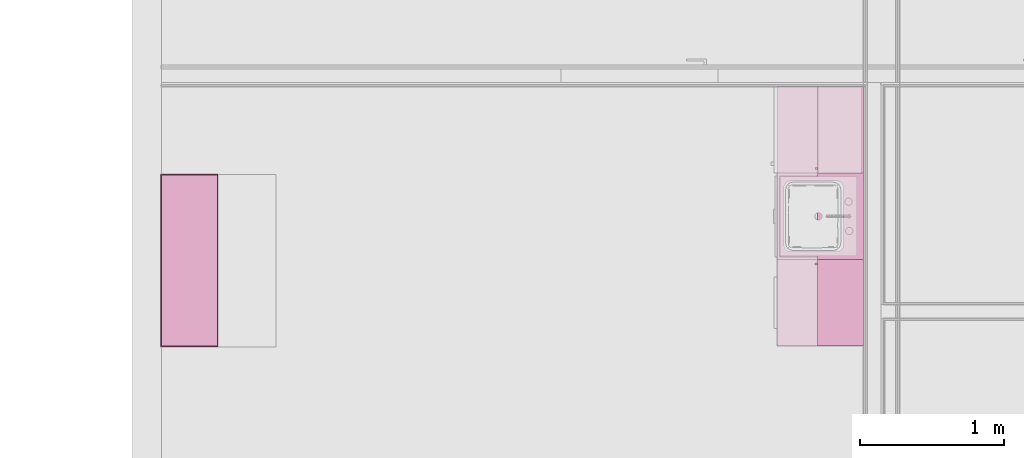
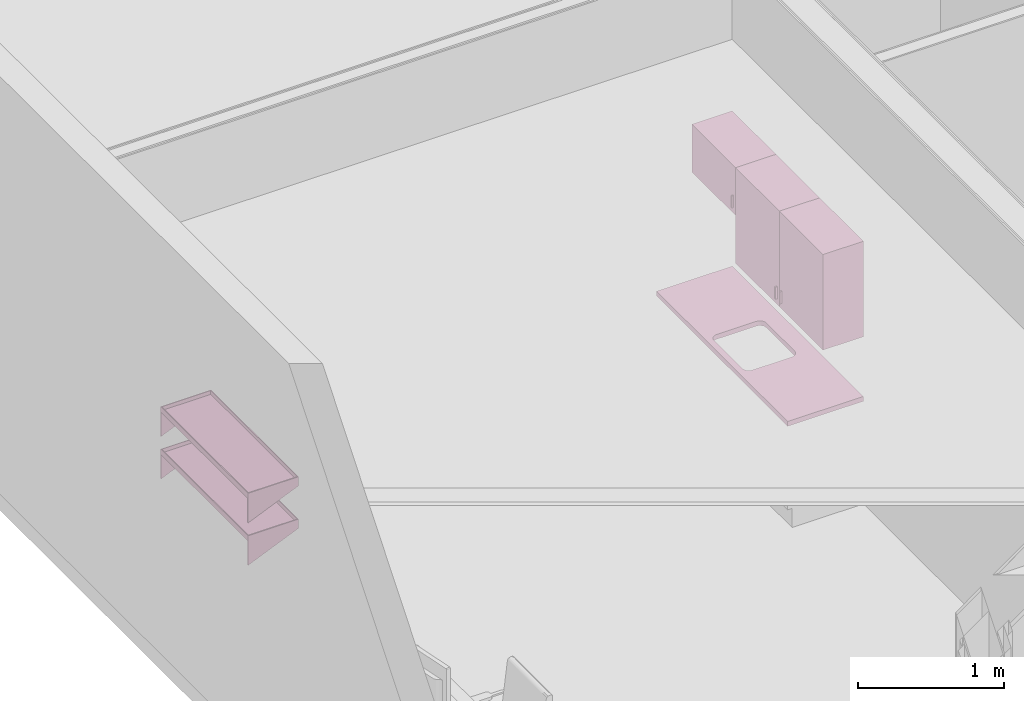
# One storey, part 9 of 12: 5 furniture elements.
"""IFC4 building model written with IfcOpenShell, lengths in millimetres."""

from ifc_helpers import new_model, entity, si_unit, converted_unit, direction, frame, origin, place, context, subcontext, project, spatial, line, arc, indexed_curve, outline, extrude, source, transform, mapped, material, type_object, type_shapes, element, save


model = new_model("IFC4")

# Units and contexts
model_context = context("Model", 3, precision=0.01, world=origin(), true_north=direction((0.0, 1.0)))
body_context = subcontext(model_context, "Body", "Model", "MODEL_VIEW")
ifc_project = project(units=[si_unit("LENGTHUNIT", "METRE", prefix="MILLI"), si_unit("AREAUNIT", "SQUARE_METRE"), si_unit("VOLUMEUNIT", "CUBIC_METRE"), converted_unit("PLANEANGLEUNIT", "DEGREE", entity("IfcPlaneAngleMeasure", 0.017453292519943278), si_unit("PLANEANGLEUNIT", "RADIAN"), dimensions=[0, 0, 0, 0, 0, 0, 0])], contexts=[model_context])

# Site, building, storey, space
site_placement = place(None, origin())
site = spatial("IfcSite", under=ifc_project, at=site_placement, Name="Tomtens navn", CompositionType="ELEMENT")
building_placement = place(site_placement, origin())
building = spatial("IfcBuilding", under=site, at=building_placement, Name="Byggets navn", CompositionType="ELEMENT")
storey_placement = place(building_placement, frame((0.0, 0.0, 3500.0)))
storey = spatial("IfcBuildingStorey", under=building, at=storey_placement, Name="Level 02", CompositionType="ELEMENT", Elevation=3499.999999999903)
space_placement = place(storey_placement, origin())
space = spatial("IfcSpace", under=storey, at=space_placement, Name="205", CompositionType="ELEMENT", PredefinedType="NOTDEFINED")

# Furniture
ifc_material_1 = material(Name="Counter Top", Category="Unassigned")
furniture_type_1 = type_object("IfcFurnitureType", Name="Worktop:with sink", AssemblyPlace="NOTDEFINED", PredefinedType="NOTDEFINED", material=ifc_material_1)
shared_shape_1 = source(origin(), body_context, "Body", "SweptSolid", [
    extrude(outline(indexed_curve([(-900.0000000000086, -300.00000000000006), (900.0000000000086, -300.00000000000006), (900.0000000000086, 300.00000000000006), (-900.0000000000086, 300.00000000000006), (-900.0000000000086, -300.00000000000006)], self_intersect=False), holes=[indexed_curve([(-194.39999999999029, -162.70000000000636), (-230.32102448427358, -147.82102448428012), (-245.19999999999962, -111.89999999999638), (-245.19999999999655, 201.90000000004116), (-230.32102448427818, 237.82102448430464), (-194.4000000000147, 252.70000000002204), (194.40000000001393, 252.70000000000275), (230.32102448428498, 237.82102448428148), (245.20000000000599, 201.90000000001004), (245.2000000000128, -111.89999999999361), (230.3210244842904, -147.82102448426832), (194.4000000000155, -162.6999999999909)], segments=[arc(1, 2, 3), line(3, 4), arc(4, 5, 6), line(6, 7), arc(7, 8, 9), line(9, 10), arc(10, 11, 12), line(12, 1)], self_intersect=False)]), frame((-300.4622950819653, -300.0, 860.0), z_axis=(0.0, 0.0, 1.0), x_axis=(-1.0, 0.0, 0.0)), (0.0, 0.0, 1.0), 40.000000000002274),
])
type_shapes(furniture_type_1, [shared_shape_1])
furniture_1_placement = place(space_placement, frame((63496.35352810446, 12807.004161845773, 0.0), z_axis=(0.0, 0.0, 1.0), x_axis=(0.0, -1.0, 0.0)))
element("IfcFurniture", 1, at=furniture_1_placement, inside=space, type_object=furniture_type_1, material=ifc_material_1, Name="Worktop:with sink", PredefinedType="NOTDEFINED", context=body_context, shape_type="MappedRepresentation", body=[
    mapped(shared_shape_1, transform((0.0, 0.0, 0.0), scale=1.0)),
])
ifc_material_2 = material(Name="Cabinets", Category="Unassigned")
furniture_type_2 = type_object("IfcFurnitureType", Name="Overskap-Enkel dør:600 H500", AssemblyPlace="NOTDEFINED", PredefinedType="NOTDEFINED", material=ifc_material_2)
shared_shape_2 = source(origin(), body_context, "Body", "SweptSolid", [
    extrude(outline(indexed_curve([(-300.00000000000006, -199.9999999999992), (300.00000000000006, -199.9999999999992), (300.00000000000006, 199.9999999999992), (-300.00000000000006, 199.9999999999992), (-300.00000000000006, -199.9999999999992)], self_intersect=False), holes=[indexed_curve([(-280.9499999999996, -180.94999999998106), (-280.94999999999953, 180.95000000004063), (280.9500000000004, 180.95000000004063), (280.95000000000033, -180.94999999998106), (-280.9499999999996, -180.94999999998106)], self_intersect=False)]), frame((29.771162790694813, 74.49999999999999, 2000.0), z_axis=(0.0, 1.0, 0.0), x_axis=(1.0, 0.0, 0.0)), (0.0, 0.0, 1.0), 299.99999999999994),
    extrude(outline(indexed_curve([(-9.525, -280.94999999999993), (9.525, -280.94999999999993), (9.525, 280.95), (-9.525, 280.95), (-9.525, -280.94999999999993)], self_intersect=False)), frame((29.771162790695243, 84.02499999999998, 1819.0499999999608), z_axis=(0.0, 0.0, 1.0), x_axis=(0.0, 1.0, 0.0)), (0.0, 0.0, 1.0), 361.90000000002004),
    extrude(outline(indexed_curve([(-9.999999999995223, -299.99999999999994), (9.999999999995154, -299.99999999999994), (9.999999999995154, 299.99999999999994), (-9.999999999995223, 299.99999999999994), (-9.999999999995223, -299.99999999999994)], self_intersect=False)), frame((29.771162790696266, 384.5000000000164, 1800.0), z_axis=(0.0, 0.0, 1.0), x_axis=(0.0, -1.0, 0.0)), (0.0, 0.0, 1.0), 400.00000000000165),
    extrude(outline(indexed_curve([(-7.499999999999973, -5.9999999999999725), (7.500000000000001, -5.9999999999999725), (7.500000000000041, 6.000000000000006), (-7.499999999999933, 6.000000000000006), (-7.499999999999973, -5.9999999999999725)], self_intersect=False)), frame((-238.6631999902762, 402.0, 1850.6534623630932), z_axis=(0.0, 0.0, 1.0), x_axis=(0.0, -1.0, 0.0)), (0.0, 0.0, 1.0), 100.0),
])
type_shapes(furniture_type_2, [shared_shape_2])
furniture_2_placement = place(space_placement, frame((63570.85352810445, 13677.695294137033, 0.0), z_axis=(0.0, 0.0, 1.0), x_axis=(0.0, 1.0, 0.0)))
element("IfcFurniture", 2, at=furniture_2_placement, inside=space, type_object=furniture_type_2, material=ifc_material_2, Name="Overskap-Enkel dør:600 H500", PredefinedType="NOTDEFINED", context=body_context, shape_type="MappedRepresentation", body=[
    mapped(shared_shape_2, transform((0.0, 0.0, 0.0), scale=1.0)),
])
furniture_type_3 = type_object("IfcFurnitureType", Name="Overskap-Enkel dør:600", AssemblyPlace="NOTDEFINED", PredefinedType="NOTDEFINED", material=ifc_material_2)
shared_shape_3 = source(origin(), body_context, "Body", "SweptSolid", [
    extrude(outline(indexed_curve([(-300.00000000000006, -400.00000000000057), (300.00000000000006, -400.00000000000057), (300.00000000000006, 400.00000000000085), (-300.00000000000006, 400.00000000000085), (-300.00000000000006, -400.00000000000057)], self_intersect=False), holes=[indexed_curve([(-280.94999999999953, -380.94999999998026), (-280.94999999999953, 380.9500000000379), (280.95000000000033, 380.9500000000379), (280.95000000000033, -380.94999999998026), (-280.94999999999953, -380.94999999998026)], self_intersect=False)]), frame((29.77116279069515, 74.49999999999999, 1800.0), z_axis=(0.0, 1.0, 0.0), x_axis=(1.0, 0.0, 0.0)), (0.0, 0.0, 1.0), 299.99999999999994),
    extrude(outline(indexed_curve([(-9.525, -280.94999999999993), (9.525, -280.94999999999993), (9.525, 280.94999999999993), (-9.525, 280.94999999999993), (-9.525, -280.94999999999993)], self_intersect=False)), frame((29.771162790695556, 84.02499999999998, 1419.0499999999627), z_axis=(0.0, 0.0, 1.0), x_axis=(0.0, 1.0, 0.0)), (0.0, 0.0, 1.0), 761.9000000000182),
    extrude(outline(indexed_curve([(-9.999999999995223, -299.99999999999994), (9.999999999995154, -299.99999999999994), (9.999999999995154, 299.99999999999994), (-9.999999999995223, 299.99999999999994), (-9.999999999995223, -299.99999999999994)], self_intersect=False)), frame((29.771162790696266, 384.5000000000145, 1400.0), z_axis=(0.0, 0.0, 1.0), x_axis=(0.0, -1.0, 0.0)), (0.0, 0.0, 1.0), 800.0000000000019),
    extrude(outline(indexed_curve([(-7.499999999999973, -5.9999999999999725), (7.500000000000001, -5.9999999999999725), (7.500000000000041, 6.000000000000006), (-7.499999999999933, 6.000000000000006), (-7.499999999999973, -5.9999999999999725)], self_intersect=False)), frame((-238.6631999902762, 402.0, 1450.6534623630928), z_axis=(0.0, 0.0, 1.0), x_axis=(0.0, -1.0, 0.0)), (0.0, 0.0, 1.0), 100.0),
])
type_shapes(furniture_type_3, [shared_shape_3])
furniture_3_placement = place(space_placement, frame((63570.85352810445, 13077.695294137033, 0.0), z_axis=(0.0, 0.0, 1.0), x_axis=(0.0, 1.0, 0.0)))
element("IfcFurniture", 3, at=furniture_3_placement, inside=space, type_object=furniture_type_3, material=ifc_material_2, Name="Overskap-Enkel dør:600", PredefinedType="NOTDEFINED", context=body_context, shape_type="MappedRepresentation", body=[
    mapped(shared_shape_3, transform((0.0, 0.0, 0.0), scale=1.0)),
])
furniture_type_4 = type_object("IfcFurnitureType", Name="Overskap-Enkel dør:600", AssemblyPlace="NOTDEFINED", PredefinedType="NOTDEFINED", material=ifc_material_2)
shared_shape_4 = source(origin(), body_context, "Body", "SweptSolid", [
    extrude(outline(indexed_curve([(-300.00000000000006, -400.00000000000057), (300.00000000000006, -400.00000000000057), (300.00000000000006, 400.00000000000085), (-300.00000000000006, 400.00000000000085), (-300.00000000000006, -400.00000000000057)], self_intersect=False), holes=[indexed_curve([(-280.94999999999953, -380.94999999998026), (-280.94999999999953, 380.9500000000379), (280.95000000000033, 380.9500000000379), (280.95000000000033, -380.94999999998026), (-280.94999999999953, -380.94999999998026)], self_intersect=False)]), frame((29.77116279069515, -374.49999999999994, 1800.0), z_axis=(0.0, 1.0, 0.0), x_axis=(1.0, 0.0, 0.0)), (0.0, 0.0, 1.0), 299.99999999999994),
    extrude(outline(indexed_curve([(-280.94999999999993, -9.525), (280.94999999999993, -9.525), (280.94999999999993, 9.525), (-280.94999999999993, 9.525), (-280.94999999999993, -9.525)], self_intersect=False)), frame((29.771162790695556, -84.02499999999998, 1419.0499999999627), z_axis=(0.0, 0.0, 1.0), x_axis=(-1.0, 0.0, 0.0)), (0.0, 0.0, 1.0), 761.9000000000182),
    extrude(outline(indexed_curve([(-299.99999999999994, -9.999999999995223), (299.99999999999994, -9.999999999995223), (299.99999999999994, 9.999999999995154), (-299.99999999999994, 9.999999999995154), (-299.99999999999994, -9.999999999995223)], self_intersect=False)), frame((29.771162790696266, -384.5000000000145, 1400.0)), (0.0, 0.0, 1.0), 800.0000000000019),
    extrude(outline(indexed_curve([(-5.999999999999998, -7.50000000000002), (5.999999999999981, -7.50000000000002), (6.000000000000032, 7.499999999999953), (-5.999999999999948, 7.499999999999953), (-5.999999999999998, -7.50000000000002)], self_intersect=False)), frame((-238.6631999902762, -402.0, 1450.6534623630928)), (0.0, 0.0, 1.0), 100.0),
])
type_shapes(furniture_type_4, [shared_shape_4])
furniture_4_placement = place(space_placement, frame((63570.85352810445, 12537.237619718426, 0.0), z_axis=(0.0, 0.0, 1.0), x_axis=(0.0, -1.0, 0.0)))
element("IfcFurniture", 4, at=furniture_4_placement, inside=space, type_object=furniture_type_4, material=ifc_material_2, Name="Overskap-Enkel dør:600", PredefinedType="NOTDEFINED", context=body_context, shape_type="MappedRepresentation", body=[
    mapped(shared_shape_4, transform((0.0, 0.0, 0.0), scale=1.0)),
])
ifc_material_3 = material(Name="<Unnamed>")
furniture_type_5 = type_object("IfcFurnitureType", Name="Detention_Bunk-WallMnt:Double-Bunk", AssemblyPlace="NOTDEFINED", PredefinedType="NOTDEFINED", material=ifc_material_3)
shared_shape_5 = source(origin(), body_context, "Body", "SweptSolid", [
    extrude(outline(indexed_curve([(-600.0000000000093, -199.99999999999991), (600.0000000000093, -199.99999999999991), (600.0000000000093, 199.99999999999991), (-600.0000000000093, 199.99999999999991), (-600.0000000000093, -199.99999999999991)], self_intersect=False)), frame((0.0, 0.0, 0.0), z_axis=(0.0, 0.0, 1.0), x_axis=(-1.0, 0.0, 0.0)), (0.0, 0.0, 1.0), 12.700000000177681),
    extrude(outline(indexed_curve([(-3.174999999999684, -599.9999999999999), (3.1749999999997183, -599.9999999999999), (3.1749999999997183, 599.9999999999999), (-3.174999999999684, 599.9999999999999), (-3.174999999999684, -599.9999999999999)], self_intersect=False)), frame((0.0, -196.82500000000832, 12.700000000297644), z_axis=(0.0, 0.0, 1.0), x_axis=(0.0, 1.0, 0.0)), (0.0, 0.0, 1.0), 31.7739986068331),
    extrude(outline(indexed_curve([(-3.174999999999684, -600.0), (3.1749999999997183, -600.0), (3.1749999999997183, 600.0), (-3.174999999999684, 600.0), (-3.174999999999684, -600.0)], self_intersect=False)), frame((0.0, 196.82499999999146, 12.69999999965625), z_axis=(0.0, 0.0, 1.0), x_axis=(0.0, -1.0, 0.0)), (0.0, 0.0, 1.0), 31.773998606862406),
    extrude(outline(indexed_curve([(-3.1749999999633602, -200.00000000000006), (3.174999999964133, -200.00000000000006), (3.1749999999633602, 200.00000000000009), (-3.174999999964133, 200.00000000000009), (-3.1749999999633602, -200.00000000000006)], self_intersect=False)), frame((596.8249999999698, 0.0, 12.700000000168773)), (0.0, 0.0, 1.0), 31.773998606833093),
    extrude(outline(indexed_curve([(-3.1749999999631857, -199.9999999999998), (3.1749999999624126, -199.9999999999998), (3.1749999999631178, 199.99999999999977), (-3.1749999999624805, 199.99999999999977), (-3.1749999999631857, -199.9999999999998)], self_intersect=False)), frame((-596.8249999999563, 0.0, 12.69999999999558), z_axis=(0.0, 0.0, 1.0), x_axis=(-1.0, 0.0, 0.0)), (0.0, 0.0, 1.0), 31.773998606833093),
    extrude(outline(indexed_curve([(-600.0000000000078, -200.00000000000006), (600.0000000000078, -200.00000000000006), (600.0000000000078, 200.00000000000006), (-600.0000000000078, 200.00000000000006), (-600.0000000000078, -200.00000000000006)], self_intersect=False)), frame((0.0, 0.0, 355.5260013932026), z_axis=(0.0, 0.0, 1.0), x_axis=(-1.0, 0.0, 0.0)), (0.0, 0.0, 1.0), 12.70000000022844),
    extrude(outline(indexed_curve([(-3.1749999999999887, -599.9999999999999), (3.1749999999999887, -599.9999999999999), (3.1749999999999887, 599.9999999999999), (-3.1749999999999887, 599.9999999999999), (-3.1749999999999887, -599.9999999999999)], self_intersect=False)), frame((0.0, -196.82500000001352, 368.2260013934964), z_axis=(0.0, 0.0, 1.0), x_axis=(0.0, 1.0, 0.0)), (0.0, 0.0, 1.0), 31.773998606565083),
    extrude(outline(indexed_curve([(-3.1750000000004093, -200.00000000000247), (3.174999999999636, -200.00000000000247), (3.1750000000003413, 200.00000000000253), (-3.174999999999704, 200.00000000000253), (-3.1750000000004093, -200.00000000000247)], self_intersect=False)), frame((-596.8249999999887, 0.0, 368.2260013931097), z_axis=(0.0, 0.0, 1.0), x_axis=(-1.0, 0.0, 0.0)), (0.0, 0.0, 1.0), 31.773998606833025),
    extrude(outline(indexed_curve([(-3.1749999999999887, -600.0), (3.1749999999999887, -600.0), (3.1749999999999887, 600.0), (-3.1749999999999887, 600.0), (-3.1749999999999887, -600.0)], self_intersect=False)), frame((0.0, 196.82499999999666, 368.2260013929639), z_axis=(0.0, 0.0, 1.0), x_axis=(0.0, -1.0, 0.0)), (0.0, 0.0, 1.0), 31.773998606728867),
    extrude(outline(indexed_curve([(-3.174999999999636, -200.0000000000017), (3.1750000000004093, -200.0000000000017), (3.174999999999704, 200.00000000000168), (-3.1750000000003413, 200.00000000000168), (-3.174999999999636, -200.0000000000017)], self_intersect=False)), frame((596.8250000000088, 0.0, 368.22600139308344)), (0.0, 0.0, 1.0), 31.773998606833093),
    extrude(outline(indexed_curve([(-58.85271391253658, -199.99999999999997), (-26.641858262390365, -199.99999999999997), (144.34728608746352, 199.99999999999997), (-58.85271391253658, 199.99999999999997), (-58.85271391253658, -199.99999999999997)], self_intersect=False)), frame((-600.0, 0.0, 296.673287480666), z_axis=(1.0, 0.0, 0.0), x_axis=(0.0, 0.0, -1.0)), (0.0, 0.0, 1.0), 6.349999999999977),
    extrude(outline(indexed_curve([(-58.8527139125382, -200.00000000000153), (-26.64185826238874, -200.00000000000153), (144.34728608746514, 200.00000000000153), (-58.8527139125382, 200.00000000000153), (-58.8527139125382, -200.00000000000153)], self_intersect=False)), frame((-600.0, 0.0, -58.85271391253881), z_axis=(1.0, 0.0, 0.0), x_axis=(0.0, 0.0, -1.0)), (0.0, 0.0, 1.0), 6.349999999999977),
    extrude(outline(indexed_curve([(-58.85271391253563, -200.00000000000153), (-26.641858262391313, -200.00000000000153), (144.34728608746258, 200.00000000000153), (-58.85271391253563, 200.00000000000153), (-58.85271391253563, -200.00000000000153)], self_intersect=False)), frame((593.6500000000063, 0.0, 296.6732874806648), z_axis=(1.0, 0.0, 0.0), x_axis=(0.0, 0.0, -1.0)), (0.0, 0.0, 1.0), 6.349999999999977),
    extrude(outline(indexed_curve([(-58.85271391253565, -200.00000000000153), (-26.64185826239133, -200.00000000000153), (144.34728608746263, 200.00000000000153), (-58.85271391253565, 200.00000000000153), (-58.85271391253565, -200.00000000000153)], self_intersect=False)), frame((593.6500000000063, 0.0, -58.85271391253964), z_axis=(1.0, 0.0, 0.0), x_axis=(0.0, 0.0, -1.0)), (0.0, 0.0, 1.0), 6.349999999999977),
])
type_shapes(furniture_type_5, [shared_shape_5])
furniture_5_placement = place(space_placement, frame((58817.35298548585, 12800.94320029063, 1400.0), z_axis=(0.0, 0.0, 1.0), x_axis=(0.0, 1.0, 0.0)))
element("IfcFurniture", 5, at=furniture_5_placement, inside=space, type_object=furniture_type_5, material=ifc_material_3, Name="Detention_Bunk-WallMnt:Double-Bunk", PredefinedType="NOTDEFINED", context=body_context, shape_type="MappedRepresentation", body=[
    mapped(shared_shape_5, transform((0.0, 0.0, 0.0), scale=1.0)),
])

save(model, "model.ifc")
